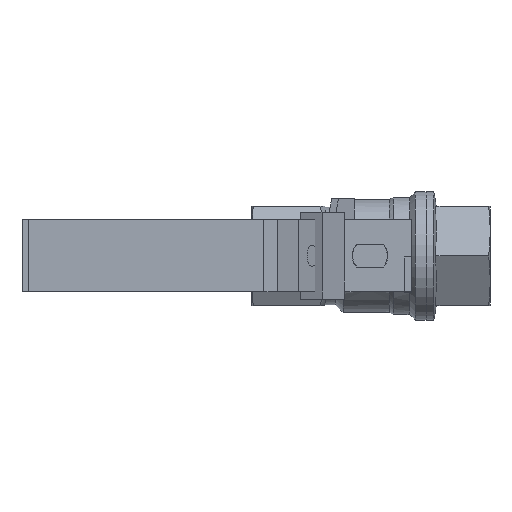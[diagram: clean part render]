
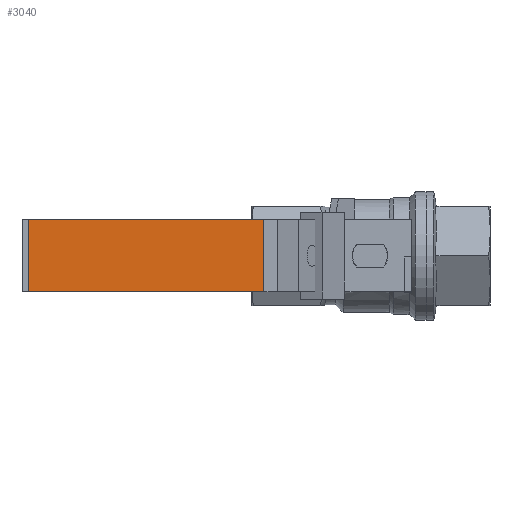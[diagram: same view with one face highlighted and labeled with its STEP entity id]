
A CAD part, top view. The second image highlights one B-rep face of the part: STEP entity #3040.
In plain terms, the highlighted planar face has unit normal (0, 0, 1).
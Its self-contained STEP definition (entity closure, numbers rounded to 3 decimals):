
#3040 = ADVANCED_FACE('',(#3041),#3055,.T.);
#3041 = FACE_BOUND('',#3042,.T.);
#3042 = EDGE_LOOP('',(#3043,#3066,#3082,#3098));
#3043 = ORIENTED_EDGE('',*,*,#3044,.T.);
#3044 = EDGE_CURVE('',#3045,#3047,#3049,.T.);
#3045 = VERTEX_POINT('',#3046);
#3046 = CARTESIAN_POINT('',(0.123,0.37,2.268));
#3047 = VERTEX_POINT('',#3048);
#3048 = CARTESIAN_POINT('',(-2.287,0.37,2.268));
#3049 = SURFACE_CURVE('',#3050,(#3054),.PCURVE_S1.);
#3050 = LINE('',#3051,#3052);
#3051 = CARTESIAN_POINT('',(-2.287,0.37,2.268));
#3052 = VECTOR('',#3053,1.);
#3053 = DIRECTION('',(-1.,0.,0.));
#3054 = PCURVE('',#3055,#3060);
#3055 = PLANE('',#3056);
#3056 = AXIS2_PLACEMENT_3D('',#3057,#3058,#3059);
#3057 = CARTESIAN_POINT('',(-1.082,-0.37,2.268));
#3058 = DIRECTION('',(0.,0.,1.));
#3059 = DIRECTION('',(1.,0.,0.));
#3060 = DEFINITIONAL_REPRESENTATION('',(#3061),#3065);
#3061 = LINE('',#3062,#3063);
#3062 = CARTESIAN_POINT('',(-1.205,0.74));
#3063 = VECTOR('',#3064,1.);
#3064 = DIRECTION('',(-1.,0.));
#3065 = ( GEOMETRIC_REPRESENTATION_CONTEXT(2) 
PARAMETRIC_REPRESENTATION_CONTEXT() REPRESENTATION_CONTEXT('2D SPACE',''
  ) );
#3066 = ORIENTED_EDGE('',*,*,#3067,.F.);
#3067 = EDGE_CURVE('',#3068,#3047,#3070,.T.);
#3068 = VERTEX_POINT('',#3069);
#3069 = CARTESIAN_POINT('',(-2.287,-0.37,2.268));
#3070 = SURFACE_CURVE('',#3071,(#3075),.PCURVE_S1.);
#3071 = LINE('',#3072,#3073);
#3072 = CARTESIAN_POINT('',(-2.287,-0.37,2.268));
#3073 = VECTOR('',#3074,1.);
#3074 = DIRECTION('',(0.,1.,0.));
#3075 = PCURVE('',#3055,#3076);
#3076 = DEFINITIONAL_REPRESENTATION('',(#3077),#3081);
#3077 = LINE('',#3078,#3079);
#3078 = CARTESIAN_POINT('',(-1.205,0.));
#3079 = VECTOR('',#3080,1.);
#3080 = DIRECTION('',(0.,1.));
#3081 = ( GEOMETRIC_REPRESENTATION_CONTEXT(2) 
PARAMETRIC_REPRESENTATION_CONTEXT() REPRESENTATION_CONTEXT('2D SPACE',''
  ) );
#3082 = ORIENTED_EDGE('',*,*,#3083,.T.);
#3083 = EDGE_CURVE('',#3068,#3084,#3086,.T.);
#3084 = VERTEX_POINT('',#3085);
#3085 = CARTESIAN_POINT('',(0.123,-0.37,2.268));
#3086 = SURFACE_CURVE('',#3087,(#3091),.PCURVE_S1.);
#3087 = LINE('',#3088,#3089);
#3088 = CARTESIAN_POINT('',(-2.287,-0.37,2.268));
#3089 = VECTOR('',#3090,1.);
#3090 = DIRECTION('',(1.,0.,0.));
#3091 = PCURVE('',#3055,#3092);
#3092 = DEFINITIONAL_REPRESENTATION('',(#3093),#3097);
#3093 = LINE('',#3094,#3095);
#3094 = CARTESIAN_POINT('',(-1.205,0.));
#3095 = VECTOR('',#3096,1.);
#3096 = DIRECTION('',(1.,0.));
#3097 = ( GEOMETRIC_REPRESENTATION_CONTEXT(2) 
PARAMETRIC_REPRESENTATION_CONTEXT() REPRESENTATION_CONTEXT('2D SPACE',''
  ) );
#3098 = ORIENTED_EDGE('',*,*,#3099,.T.);
#3099 = EDGE_CURVE('',#3084,#3045,#3100,.T.);
#3100 = SURFACE_CURVE('',#3101,(#3105),.PCURVE_S1.);
#3101 = LINE('',#3102,#3103);
#3102 = CARTESIAN_POINT('',(0.123,-0.37,2.268));
#3103 = VECTOR('',#3104,1.);
#3104 = DIRECTION('',(0.,1.,0.));
#3105 = PCURVE('',#3055,#3106);
#3106 = DEFINITIONAL_REPRESENTATION('',(#3107),#3111);
#3107 = LINE('',#3108,#3109);
#3108 = CARTESIAN_POINT('',(1.205,0.));
#3109 = VECTOR('',#3110,1.);
#3110 = DIRECTION('',(0.,1.));
#3111 = ( GEOMETRIC_REPRESENTATION_CONTEXT(2) 
PARAMETRIC_REPRESENTATION_CONTEXT() REPRESENTATION_CONTEXT('2D SPACE',''
  ) );
